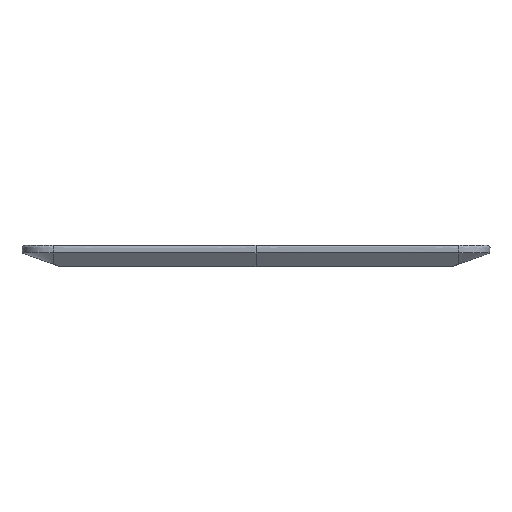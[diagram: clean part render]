
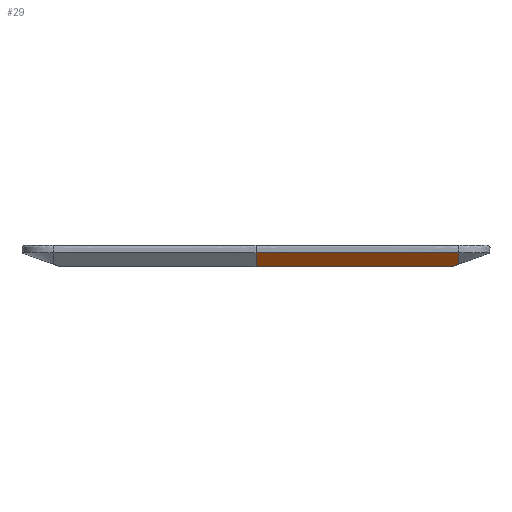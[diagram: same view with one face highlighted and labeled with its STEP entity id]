
A CAD part, front view. The second image highlights one B-rep face of the part: STEP entity #29.
In plain terms, the highlighted free-form (B-spline) face has degree [2, 3] with [7, 4] control points.
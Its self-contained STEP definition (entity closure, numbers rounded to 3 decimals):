
#29=ADVANCED_FACE('',(#53),#357,.T.);
#53=FACE_OUTER_BOUND('',#77,.T.);
#77=EDGE_LOOP('',(#157,#158,#159,#160,#161));
#157=ORIENTED_EDGE('',*,*,#240,.F.);
#158=ORIENTED_EDGE('',*,*,#207,.F.);
#159=ORIENTED_EDGE('',*,*,#241,.F.);
#160=ORIENTED_EDGE('',*,*,#201,.T.);
#161=ORIENTED_EDGE('',*,*,#243,.F.);
#201=EDGE_CURVE('',#313,#314,#261,.T.);
#207=EDGE_CURVE('',#319,#320,#267,.T.);
#240=EDGE_CURVE('',#320,#341,#298,.T.);
#241=EDGE_CURVE('',#313,#319,#299,.T.);
#243=EDGE_CURVE('',#341,#314,#257,.T.);
#257=B_SPLINE_CURVE_WITH_KNOTS('',3,(#2591,#2592,#2593,#2594),
 .UNSPECIFIED.,.F.,.F.,(4,4),(0.,14.473),.UNSPECIFIED.);
#261=(
BOUNDED_CURVE()
B_SPLINE_CURVE(3,(#2155,#2156,#2157,#2158),.UNSPECIFIED.,.F.,.F.)
B_SPLINE_CURVE_WITH_KNOTS((4,4),(0.,250.082),.UNSPECIFIED.)
CURVE()
GEOMETRIC_REPRESENTATION_ITEM()
RATIONAL_B_SPLINE_CURVE((1.,1.,1.,1.))
REPRESENTATION_ITEM('')
);
#267=(
BOUNDED_CURVE()
B_SPLINE_CURVE(3,(#2179,#2180,#2181,#2182),.UNSPECIFIED.,.F.,.F.)
B_SPLINE_CURVE_WITH_KNOTS((4,4),(0.,260.),.UNSPECIFIED.)
CURVE()
GEOMETRIC_REPRESENTATION_ITEM()
RATIONAL_B_SPLINE_CURVE((1.,1.,1.,1.))
REPRESENTATION_ITEM('')
);
#298=(
BOUNDED_CURVE()
B_SPLINE_CURVE(2,(#2570,#2571,#2572,#2573,#2574,#2575,#2576),
 .UNSPECIFIED.,.F.,.F.)
B_SPLINE_CURVE_WITH_KNOTS((3,2,2,3),(-10.663,-10.541,
-10.26,-2.108),.UNSPECIFIED.)
CURVE()
GEOMETRIC_REPRESENTATION_ITEM()
RATIONAL_B_SPLINE_CURVE((1.,0.818,1.,1.,1.,1.,1.))
REPRESENTATION_ITEM('')
);
#299=(
BOUNDED_CURVE()
B_SPLINE_CURVE(2,(#2577,#2578,#2579,#2580,#2581,#2582,#2583),
 .UNSPECIFIED.,.F.,.F.)
B_SPLINE_CURVE_WITH_KNOTS((3,2,2,3),(0.,10.26,10.541,
10.663),.UNSPECIFIED.)
CURVE()
GEOMETRIC_REPRESENTATION_ITEM()
RATIONAL_B_SPLINE_CURVE((1.,1.,1.,1.,1.,0.818,1.))
REPRESENTATION_ITEM('')
);
#313=VERTEX_POINT('',#2115);
#314=VERTEX_POINT('',#2116);
#319=VERTEX_POINT('',#2121);
#320=VERTEX_POINT('',#2122);
#341=VERTEX_POINT('',#2143);
#357=(
BOUNDED_SURFACE()
B_SPLINE_SURFACE(2,3,((#1497,#1498,#1499,#1500),(#1501,#1502,#1503,#1504),
(#1505,#1506,#1507,#1508),(#1509,#1510,#1511,#1512),(#1513,#1514,#1515,
#1516),(#1517,#1518,#1519,#1520),(#1521,#1522,#1523,#1524)),
 .UNSPECIFIED.,.F.,.F.,.F.)
B_SPLINE_SURFACE_WITH_KNOTS((3,2,2,3),(4,4),(-10.663,-10.541,
-10.26,0.),(0.,260.),.UNSPECIFIED.)
GEOMETRIC_REPRESENTATION_ITEM()
RATIONAL_B_SPLINE_SURFACE(((1.,1.,1.,1.),(0.818,0.818,
0.818,0.818),(1.,1.,1.,1.),(1.,1.,1.,1.),(1.,1.,
1.,1.),(1.,1.,1.,1.),(1.,1.,1.,1.)))
REPRESENTATION_ITEM('')
SURFACE()
);
#1497=CARTESIAN_POINT('',(0.,-300.,18.351));
#1498=CARTESIAN_POINT('',(86.666,-300.,18.351));
#1499=CARTESIAN_POINT('',(173.334,-300.,18.351));
#1500=CARTESIAN_POINT('',(260.,-300.,18.351));
#1501=CARTESIAN_POINT('',(0.,-300.,18.));
#1502=CARTESIAN_POINT('',(86.666,-300.,18.));
#1503=CARTESIAN_POINT('',(173.334,-300.,18.));
#1504=CARTESIAN_POINT('',(260.,-300.,18.));
#1505=CARTESIAN_POINT('',(0.,-299.669,17.881));
#1506=CARTESIAN_POINT('',(86.666,-299.669,17.881));
#1507=CARTESIAN_POINT('',(173.334,-299.669,17.881));
#1508=CARTESIAN_POINT('',(260.,-299.669,17.881));
#1509=CARTESIAN_POINT('',(0.,-299.01,17.644));
#1510=CARTESIAN_POINT('',(86.666,-299.01,17.644));
#1511=CARTESIAN_POINT('',(173.334,-299.01,17.644));
#1512=CARTESIAN_POINT('',(260.,-299.01,17.644));
#1513=CARTESIAN_POINT('',(0.,-298.351,17.406));
#1514=CARTESIAN_POINT('',(86.666,-298.351,17.406));
#1515=CARTESIAN_POINT('',(173.334,-298.351,17.406));
#1516=CARTESIAN_POINT('',(260.,-298.351,17.406));
#1517=CARTESIAN_POINT('',(0.,-274.217,8.718));
#1518=CARTESIAN_POINT('',(86.666,-274.217,8.718));
#1519=CARTESIAN_POINT('',(173.334,-274.217,8.718));
#1520=CARTESIAN_POINT('',(260.,-274.217,8.718));
#1521=CARTESIAN_POINT('',(0.,-250.082,0.03));
#1522=CARTESIAN_POINT('',(86.666,-250.082,0.03));
#1523=CARTESIAN_POINT('',(173.334,-250.082,0.03));
#1524=CARTESIAN_POINT('',(260.,-250.082,0.03));
#2115=CARTESIAN_POINT('',(0.,-250.082,0.03));
#2116=CARTESIAN_POINT('',(250.082,-250.082,0.03));
#2121=CARTESIAN_POINT('',(0.,-300.,18.351));
#2122=CARTESIAN_POINT('',(260.,-300.,18.351));
#2143=CARTESIAN_POINT('',(260.,-260.,3.6));
#2155=CARTESIAN_POINT('',(0.,-250.082,0.03));
#2156=CARTESIAN_POINT('',(83.36,-250.082,0.03));
#2157=CARTESIAN_POINT('',(166.722,-250.082,0.03));
#2158=CARTESIAN_POINT('',(250.082,-250.082,0.03));
#2179=CARTESIAN_POINT('',(0.,-300.,18.351));
#2180=CARTESIAN_POINT('',(86.667,-300.,18.351));
#2181=CARTESIAN_POINT('',(173.333,-300.,18.351));
#2182=CARTESIAN_POINT('',(260.,-300.,18.351));
#2570=CARTESIAN_POINT('',(260.,-300.,18.351));
#2571=CARTESIAN_POINT('',(260.,-300.,18.));
#2572=CARTESIAN_POINT('',(260.,-299.669,17.881));
#2573=CARTESIAN_POINT('',(260.,-299.01,17.644));
#2574=CARTESIAN_POINT('',(260.,-298.351,17.406));
#2575=CARTESIAN_POINT('',(260.,-279.176,10.503));
#2576=CARTESIAN_POINT('',(260.,-260.,3.6));
#2577=CARTESIAN_POINT('',(0.,-250.082,0.03));
#2578=CARTESIAN_POINT('',(0.,-274.217,8.718));
#2579=CARTESIAN_POINT('',(0.,-298.351,17.406));
#2580=CARTESIAN_POINT('',(0.,-299.01,17.644));
#2581=CARTESIAN_POINT('',(0.,-299.669,17.881));
#2582=CARTESIAN_POINT('',(0.,-300.,18.));
#2583=CARTESIAN_POINT('',(0.,-300.,18.351));
#2591=CARTESIAN_POINT('',(260.,-260.,3.6));
#2592=CARTESIAN_POINT('',(256.694,-256.694,2.41));
#2593=CARTESIAN_POINT('',(253.388,-253.388,1.22));
#2594=CARTESIAN_POINT('',(250.082,-250.082,0.03));
